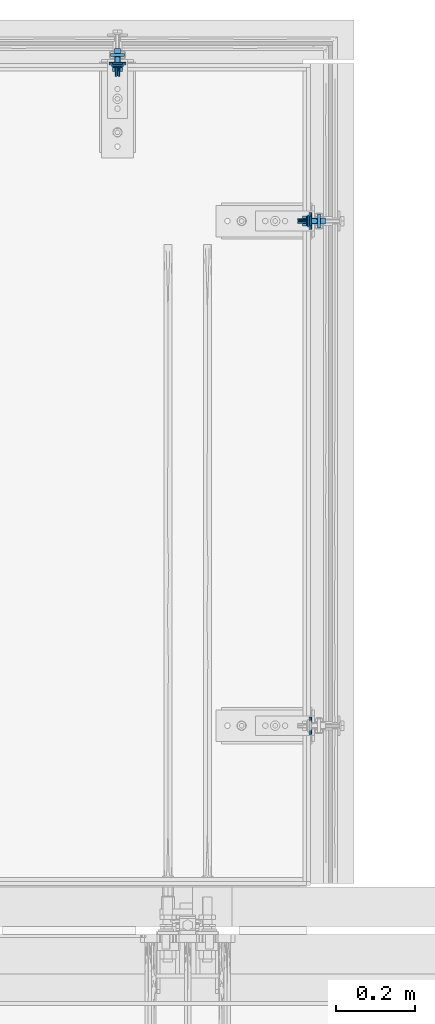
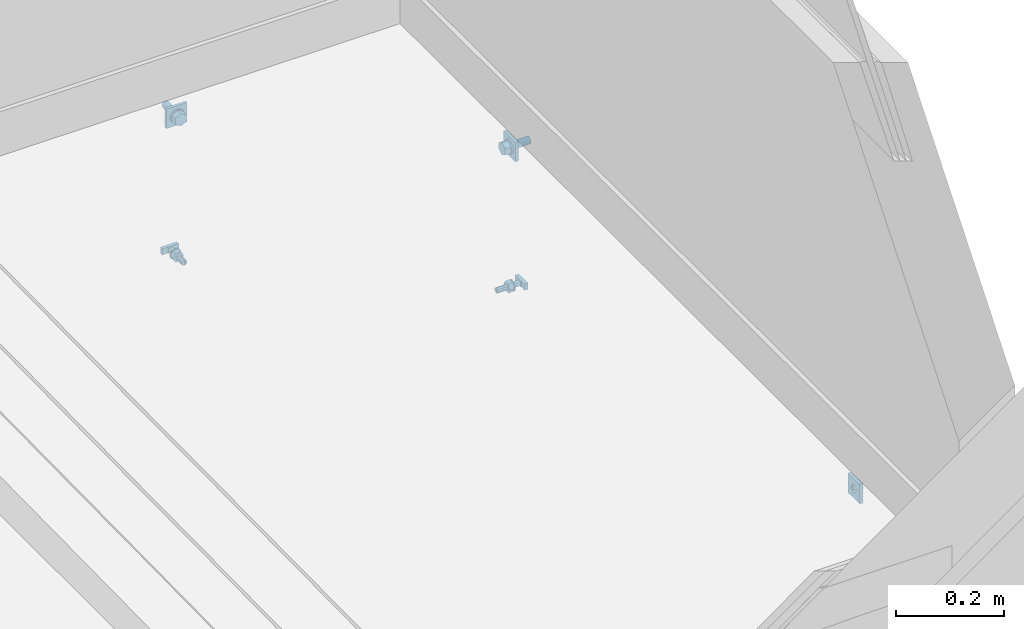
# One storey, part 7 of 17: 13 assemblies.
"""IFC2X3 building model written with IfcOpenShell, lengths in metres."""

import ifcopenshell
import ifcopenshell.guid

model = None  # the IFC model being written
_history = None  # IfcOwnerHistory: only IFC2X3 demands one
_inside = {}  # id of a spatial element -> (the spatial element, [elements in it])
_under = {}  # id of a project, library or spatial element -> (it, [spatial elements below it])
_declared = {}  # id of a project -> (the project, [libraries it declares])
_typed = {}  # id of a type object -> (the type object, [elements of that type])
_made_of = {}  # id of a material, layer set ... -> (it, [elements and type objects made of it])


def new_model(schema):
    """Start an empty IFC model of exactly this schema.

    Asked for "IFC4X3", IfcOpenShell would pick the latest addendum, in which some entities
    have other attributes; the version numbers below select the first issue.
    IFC2X3 requires an IfcOwnerHistory on every rooted entity: one is made here for all.
    """
    global model, _history
    if schema == "IFC4X3":
        model = ifcopenshell.file(schema_version=(4, 3, 0, 0))
    else:
        model = ifcopenshell.file(schema=schema)
    _inside.clear()
    _under.clear()
    _declared.clear()
    _typed.clear()
    _made_of.clear()
    _history = None
    if model.schema == "IFC2X3":
        org = make("IfcOrganization", Name="unknown")
        user = make(
            "IfcPersonAndOrganization",
            ThePerson=make("IfcPerson", FamilyName="unknown"),
            TheOrganization=org,
        )
        app = make(
            "IfcApplication",
            ApplicationDeveloper=org,
            Version="unknown",
            ApplicationFullName="unknown",
            ApplicationIdentifier="unknown",
        )
        _history = make(
            "IfcOwnerHistory",
            OwningUser=user,
            OwningApplication=app,
            ChangeAction="ADDED",
            CreationDate=0,
        )
    return model


def make(cls, **values):
    """One entity of the class cls with the attributes given. An attribute that is None is left unset."""
    return model.create_entity(
        cls, **{name: value for name, value in values.items() if value is not None}
    )


def entity(cls, *values):
    """Any entity or typed value of the class cls, its attributes in the order of the schema. None: left unset."""
    e = model.create_entity(cls)
    for i, value in enumerate(values):
        if value is not None:
            e[i] = value
    return e


def rooted(cls, **values):
    """An entity with a GlobalId (a new one), such as an element, a storey or a relation."""
    return make(cls, GlobalId=ifcopenshell.guid.new(), OwnerHistory=_history, **values)


def si_unit(unit_type, name, prefix=None):
    """IfcSIUnit, for example si_unit("LENGTHUNIT", "METRE", prefix="MILLI")."""
    return make("IfcSIUnit", UnitType=unit_type, Prefix=prefix, Name=name)


def converted_unit(unit_type, name, factor, base, dimensions=None, offset=None):
    """IfcConversionBasedUnit, such as the inch: factor (a typed value) times the base unit."""
    return make(
        "IfcConversionBasedUnit"
        if offset is None
        else "IfcConversionBasedUnitWithOffset",
        ConversionOffset=offset,
        Dimensions=None
        if dimensions is None
        else entity("IfcDimensionalExponents", *dimensions),
        UnitType=unit_type,
        Name=name,
        ConversionFactor=make(
            "IfcMeasureWithUnit", ValueComponent=factor, UnitComponent=base
        ),
    )


def derived_unit(unit_type, elements):
    """IfcDerivedUnit: a product of units, each with its exponent."""
    return make(
        "IfcDerivedUnit",
        Elements=[
            make("IfcDerivedUnitElement", Unit=unit, Exponent=power)
            for unit, power in elements
        ],
        UnitType=unit_type,
    )


def assignment(units):
    """IfcUnitAssignment: the units of a project."""
    return None if units is None else make("IfcUnitAssignment", Units=units)


def point(xyz):
    """IfcCartesianPoint."""
    return None if xyz is None else make("IfcCartesianPoint", Coordinates=xyz)


def direction(xyz):
    """IfcDirection."""
    return None if xyz is None else make("IfcDirection", DirectionRatios=xyz)


def frame(location, z_axis=None, x_axis=None):
    """IfcAxis2Placement3D, a coordinate frame: its origin and axes. An axis left out is left unset."""
    return make(
        "IfcAxis2Placement3D",
        Location=point(location),
        Axis=direction(z_axis),
        RefDirection=direction(x_axis),
    )


def frame_2d(location, x_axis=None):
    """IfcAxis2Placement2D, a coordinate frame in the plane: its origin and x axis."""
    return make(
        "IfcAxis2Placement2D", Location=point(location), RefDirection=direction(x_axis)
    )


def origin():
    """The frame at (0, 0, 0) with its axes left unset."""
    return frame((0.0, 0.0, 0.0))


def place(relative_to, where):
    """IfcLocalPlacement: puts the frame where relative to a parent placement (None: the world)."""
    return make(
        "IfcLocalPlacement", PlacementRelTo=relative_to, RelativePlacement=where
    )


def context(
    kind, dimensions, precision=None, world=None, true_north=None, identifier=None
):
    """IfcGeometricRepresentationContext, for example the 3D "Model" context."""
    return make(
        "IfcGeometricRepresentationContext",
        ContextIdentifier=identifier,
        ContextType=kind,
        CoordinateSpaceDimension=dimensions,
        Precision=precision,
        WorldCoordinateSystem=world,
        TrueNorth=true_north,
    )


def subcontext(parent, identifier, kind, view, scale=None):
    """IfcGeometricRepresentationSubContext, for example "Body" below "Model"."""
    return make(
        "IfcGeometricRepresentationSubContext",
        ContextIdentifier=identifier,
        ContextType=kind,
        ParentContext=parent,
        TargetScale=scale,
        TargetView=view,
    )


def project(units=None, contexts=None):
    """IfcProject with its units and contexts."""
    return rooted(
        "IfcProject",
        Name="project",
        RepresentationContexts=contexts,
        UnitsInContext=assignment(units),
    )


def spatial(cls, under=None, at=None, **own):
    """A site, building, storey or space (cls), placed at a placement, below another one or the project."""
    s = rooted(cls, ObjectPlacement=at, **own)
    if under is not None:
        _under.setdefault(under.id(), (under, []))[1].append(s)
    return s


def polyline(points):
    """IfcPolyline through the points."""
    return make("IfcPolyline", Points=[point(p) for p in points])


def circle_curve(where, radius):
    """IfcCircle in the frame where."""
    return make("IfcCircle", Position=where, Radius=radius)


def parameter(value):
    """IfcParameterValue: where a trimmed curve begins or ends, as a parameter of its basis curve."""
    return model.create_entity("IfcParameterValue", value)


def trimmed(basis, trim1, trim2, sense, master):
    """IfcTrimmedCurve: the piece of a basis curve between two trims."""
    return make(
        "IfcTrimmedCurve",
        BasisCurve=basis,
        Trim1=trim1,
        Trim2=trim2,
        SenseAgreement=sense,
        MasterRepresentation=master,
    )


def segment(curve, same_sense, transition):
    """IfcCompositeCurveSegment."""
    return make(
        "IfcCompositeCurveSegment",
        Transition=transition,
        SameSense=same_sense,
        ParentCurve=curve,
    )


def composite_curve(segments, self_intersect=None):
    """IfcCompositeCurve: segments joined end to end."""
    return make("IfcCompositeCurve", Segments=segments, SelfIntersect=self_intersect)


def profile(cls, at=None, kind="AREA", **sizes):
    """A parametric profile (cls). Its sizes go by their IFC names, for example OverallWidth=200.0."""
    return make(cls, ProfileType=kind, Position=at, **sizes)


def circle(**sizes):
    """IfcCircleProfileDef."""
    return profile("IfcCircleProfileDef", **sizes)


def hollow_circle(**sizes):
    """IfcCircleHollowProfileDef."""
    return profile("IfcCircleHollowProfileDef", **sizes)


def outline(outer, holes=None, kind="AREA"):
    """IfcArbitraryClosedProfileDef: a profile drawn as a closed curve; with holes, ...WithVoids."""
    if holes is None:
        return make("IfcArbitraryClosedProfileDef", ProfileType=kind, OuterCurve=outer)
    return make(
        "IfcArbitraryProfileDefWithVoids",
        ProfileType=kind,
        OuterCurve=outer,
        InnerCurves=holes,
    )


def extrude(swept, where, along, depth):
    """IfcExtrudedAreaSolid: the profile swept, set in the frame where, extruded along a direction by depth."""
    return make(
        "IfcExtrudedAreaSolid",
        SweptArea=swept,
        Position=where,
        ExtrudedDirection=direction(along),
        Depth=depth,
    )


def faces_of(points, faces, orient=None, outer=None):
    """IfcFace entities. A face is a list of loops; a loop is a list of indices into points, from 0.

    orient and outer hold one flag for each loop. By default every Orientation is true, the
    first loop of a face is its IfcFaceOuterBound and the others are IfcFaceBound.
    """
    made = []
    for i, loops in enumerate(faces):
        bounds = []
        for j, loop in enumerate(loops):
            is_outer = j == 0 if outer is None else outer[i][j]
            bounds.append(
                make(
                    "IfcFaceOuterBound" if is_outer else "IfcFaceBound",
                    Bound=make("IfcPolyLoop", Polygon=[points[k] for k in loop]),
                    Orientation=True if orient is None else orient[i][j],
                )
            )
        made.append(make("IfcFace", Bounds=bounds))
    return made


def faceted_brep(points, faces, orient=None, outer=None, voids=None):
    """IfcFacetedBrep: a solid bounded by flat faces; with voids (closed shells), ...WithVoids."""
    shared = [point(p) for p in points]
    hull = make("IfcClosedShell", CfsFaces=faces_of(shared, faces, orient, outer))
    if voids is None:
        return make("IfcFacetedBrep", Outer=hull)
    return make(
        "IfcFacetedBrepWithVoids",
        Outer=hull,
        Voids=[
            make(cls, CfsFaces=faces_of(shared, fs, o, b)) for cls, fs, o, b in voids
        ],
    )


def shape(context_of_items, identifier, shape_type, items):
    """IfcShapeRepresentation: the items that make up one representation, for example the "Body"."""
    return make(
        "IfcShapeRepresentation",
        ContextOfItems=context_of_items,
        RepresentationIdentifier=identifier,
        RepresentationType=shape_type,
        Items=items,
    )


def source(mapping_origin, context_of_items, identifier, shape_type, items):
    """IfcRepresentationMap: a shape defined once, which mapped items show again and again."""
    return make(
        "IfcRepresentationMap",
        MappingOrigin=mapping_origin,
        MappedRepresentation=shape(context_of_items, identifier, shape_type, items),
    )


def transform(
    local_origin,
    x_axis=None,
    y_axis=None,
    z_axis=None,
    scale=None,
    scale2=None,
    scale3=None,
    uniform=True,
):
    """IfcCartesianTransformationOperator3D, or its non-uniform kind. x_axis, y_axis, z_axis: its Axis1, 2, 3."""
    if uniform:
        return make(
            "IfcCartesianTransformationOperator3D",
            Axis1=direction(x_axis),
            Axis2=direction(y_axis),
            LocalOrigin=point(local_origin),
            Scale=scale,
            Axis3=direction(z_axis),
        )
    return make(
        "IfcCartesianTransformationOperator3DnonUniform",
        Axis1=direction(x_axis),
        Axis2=direction(y_axis),
        LocalOrigin=point(local_origin),
        Scale=scale,
        Axis3=direction(z_axis),
        Scale2=scale2,
        Scale3=scale3,
    )


def mapped(mapping_source, mapping_target):
    """IfcMappedItem: shows the shape of a source again, moved by a transform."""
    return make(
        "IfcMappedItem", MappingSource=mapping_source, MappingTarget=mapping_target
    )


def material(Name=None, Category=None):
    """IfcMaterial."""
    return make("IfcMaterial", Name=Name, Category=Category)


def made_of(thing, what):
    """Note that an element or type object is made of a material, layer set ...; save() writes the relation."""
    if what is not None:
        _made_of.setdefault(what.id(), (what, []))[1].append(thing)
    return thing


def type_object(cls, material=None, **own):
    """A type object (cls), such as IfcWallType, which elements share."""
    return made_of(rooted(cls, **own), material)


def type_shapes(of_type, sources):
    """Give a type object the sources (RepresentationMaps) that its elements show as mapped items."""
    of_type.RepresentationMaps = sources


def element(
    cls,
    number,
    at=None,
    inside=None,
    cuts=None,
    type_object=None,
    material=None,
    context=None,
    identifier="Body",
    shape_type=None,
    held_by="IfcProductDefinitionShape",
    body=None,
    shapes=None,
    **own,
):
    """One element of the class cls, such as IfcWall. Its Tag is "e" and its number.

    at: its placement. inside: the storey or other place that contains it. cuts: it is an
    opening in that element (IfcRelVoidsElement). A single representation is given by context,
    identifier, shape_type and body (its items); several are given by shapes. held_by: the class
    of the entity that holds the representations. save() writes the other relations.
    """
    e = rooted(cls, Tag="e%d" % number, ObjectPlacement=at, **own)
    if body is not None:
        shapes = [shape(context, identifier, shape_type, body)]
    if shapes is not None:
        e.Representation = make(held_by, Representations=shapes)
    if inside is not None:
        _inside.setdefault(inside.id(), (inside, []))[1].append(e)
    if cuts is not None:
        rooted(
            "IfcRelVoidsElement", RelatingBuildingElement=cuts, RelatedOpeningElement=e
        )
    if type_object is not None:
        _typed.setdefault(type_object.id(), (type_object, []))[1].append(e)
    return made_of(e, material)


def aggregate(whole, parts):
    """IfcRelAggregates: a whole, such as a stair, and the parts it consists of."""
    return rooted("IfcRelAggregates", RelatingObject=whole, RelatedObjects=parts)


def save(model, path):
    """Write the relations noted so far, then the file.

    IfcRelAggregates (storeys below a building ...), IfcRelContainedInSpatialStructure (elements
    in a storey), IfcRelDefinesByType, IfcRelAssociatesMaterial and IfcRelDeclares: one each for
    every whole, place, type object, material and project.
    """
    for whole, parts in _under.values():
        aggregate(whole, parts)
    for where, things in _inside.values():
        rooted(
            "IfcRelContainedInSpatialStructure",
            RelatedElements=things,
            RelatingStructure=where,
        )
    for kind, things in _typed.values():
        rooted("IfcRelDefinesByType", RelatedObjects=things, RelatingType=kind)
    for what, things in _made_of.values():
        rooted("IfcRelAssociatesMaterial", RelatedObjects=things, RelatingMaterial=what)
    for by, libraries in _declared.values():
        rooted("IfcRelDeclares", RelatingContext=by, RelatedDefinitions=libraries)
    model.write(path)


model = new_model("IFC2X3")

# Units and contexts
model_context = context("Model", 3, precision=1e-05, world=origin(), true_north=direction((6.123031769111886e-17, 1.0)))
plan_context = context("Plan", 3, precision=1e-05, world=origin(), true_north=direction((6.123031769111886e-17, 1.0)))
body_context = subcontext(model_context, "Body", "Model", "MODEL_VIEW")
ifc_project = project(units=[si_unit("LENGTHUNIT", "METRE"), si_unit("AREAUNIT", "SQUARE_METRE"), converted_unit("PLANEANGLEUNIT", "DEGREE", entity("IfcPlaneAngleMeasure", 0.017453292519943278), si_unit("PLANEANGLEUNIT", "RADIAN"), dimensions=[0, 0, 0, 0, 0, 0, 0]), si_unit("VOLUMEUNIT", "CUBIC_METRE"), derived_unit("THERMALTRANSMITTANCEUNIT", [(si_unit("MASSUNIT", "GRAM", prefix="KILO"), 1), (si_unit("THERMODYNAMICTEMPERATUREUNIT", "KELVIN"), -1), (si_unit("TIMEUNIT", "SECOND"), -3)]), derived_unit("USERDEFINED", [(si_unit("MASSUNIT", "GRAM", prefix="KILO"), 1), (si_unit("THERMODYNAMICTEMPERATUREUNIT", "KELVIN"), -1), (si_unit("TIMEUNIT", "SECOND"), -2)]), derived_unit("THERMALRESISTANCEUNIT", [(si_unit("MASSUNIT", "GRAM", prefix="KILO"), -1), (si_unit("TIMEUNIT", "SECOND"), 3), (si_unit("THERMODYNAMICTEMPERATUREUNIT", "KELVIN"), 1)]), si_unit("PRESSUREUNIT", "PASCAL"), derived_unit("MASSDENSITYUNIT", [(si_unit("MASSUNIT", "GRAM", prefix="KILO"), 1), (si_unit("LENGTHUNIT", "METRE"), -3)]), derived_unit("VAPORPERMEABILITYUNIT", [(si_unit("LENGTHUNIT", "METRE"), -1), (si_unit("TIMEUNIT", "SECOND"), 1)]), derived_unit("USERDEFINED", [(si_unit("MASSUNIT", "GRAM", prefix="KILO"), 1), (si_unit("TIMEUNIT", "SECOND"), -3), (si_unit("LENGTHUNIT", "METRE"), 3), (si_unit("ELECTRICCURRENTUNIT", "AMPERE"), -2)])], contexts=[model_context, plan_context])

# Site, building, storey
site_placement = place(None, origin())
site = spatial("IfcSite", under=ifc_project, at=site_placement, Name="Default", CompositionType="ELEMENT")
building_placement = place(site_placement, origin())
building = spatial("IfcBuilding", under=site, at=building_placement, CompositionType="ELEMENT")
storey_placement = place(building_placement, origin())
storey = spatial("IfcBuildingStorey", under=building, at=storey_placement, Name="L0", CompositionType="ELEMENT", Elevation=0.0)

# Assemblies
ifc_material = material(Name="REC_Acero, S 275JR (Zincado)")
type_product_1 = type_object("IfcTypeProduct", Name="REC-A-M16:A-M16", material=ifc_material)
shared_shape_1 = source(origin(), body_context, "Body", "SweptSolid", [
    extrude(hollow_circle(Radius=0.015, WallThickness=0.006499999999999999, at=frame_2d((1.062573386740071e-19, -2.4233168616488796e-17), x_axis=(1.0, 0.0))), origin(), (0.0, 0.0, 1.0), 0.003),
])
type_shapes(type_product_1, [shared_shape_1])
for number, where, z_axis, x_axis in (
    (1, (7.407720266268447, 16.999905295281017, 0.07200000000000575), (0.0, -1.0, 0.0), (1.0, 0.0, 0.0)),
    (2, (7.893095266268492, 16.604530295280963, 0.07200000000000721), (-1.0, 0.0, 0.0), (0.0, -1.0, 0.0)),
):
    element("IfcElementAssembly", number, at=place(storey_placement, frame(where, z_axis=z_axis, x_axis=x_axis)), inside=storey, type_object=type_product_1, material=ifc_material, Name="REC-A-M16:A-M16", ObjectType="REC-A-M16:A-M16", AssemblyPlace="NOTDEFINED", PredefinedType="NOTDEFINED", context=body_context, shape_type="MappedRepresentation", body=[
        mapped(shared_shape_1, transform((0.0, 0.0, 0.0), scale=1.0)),
    ])
type_product_2 = type_object("IfcTypeProduct", Name="REC-M16-45:M16-45", material=ifc_material)
shared_shape_2 = source(origin(), body_context, "Body", "SweptSolid", [
    extrude(outline(polyline([(-0.0070686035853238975, -0.012243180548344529), (0.007068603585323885, -0.012243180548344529), (0.014137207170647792, 0.0), (0.007068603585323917, 0.012243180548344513), (-0.007068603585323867, 0.012243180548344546), (-0.014137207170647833, 0.0), (-0.0070686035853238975, -0.012243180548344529)])), origin(), (0.0, 0.0, 1.0), 0.013000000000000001),
    extrude(circle(Radius=0.008, at=frame_2d((-5.2874371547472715e-19, -1.2924356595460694e-17), x_axis=(1.0, 0.0))), frame((0.0, 0.0, -0.045000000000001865)), (0.0, 0.0, 1.0), 0.045000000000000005),
])
type_shapes(type_product_2, [shared_shape_2])
for number, where, z_axis, x_axis, name in (
    (3, (7.407720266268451, 16.996905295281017, 0.07199999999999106), (0.0, -1.0, 0.0), (0.0, 0.0, 1.0), "REC-M16-45:M16-45"),
    (4, (7.890095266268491, 16.60453029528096, 0.07199999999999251), (-1.0, 0.0, 0.0), (0.0, 0.0, 1.0), "REC-M16-45:M16-45"),
):
    element("IfcElementAssembly", number, at=place(storey_placement, frame(where, z_axis=z_axis, x_axis=x_axis)), inside=storey, type_object=type_product_2, material=ifc_material, Name=name, ObjectType="REC-M16-45:M16-45", AssemblyPlace="NOTDEFINED", PredefinedType="NOTDEFINED", context=body_context, shape_type="MappedRepresentation", body=[
        mapped(shared_shape_2, transform((0.0, 0.0, 0.0), scale=1.0)),
    ])
type_product_3 = type_object("IfcTypeProduct", Name="REC-TPH1250:TPH1250", material=ifc_material)
shared_shape_3 = source(origin(), body_context, "Body", "Brep", [
    faceted_brep([(-0.005512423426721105, 0.006999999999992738, 0.04999470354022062), (-0.005512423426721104, 0.006999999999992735, 0.050994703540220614), (-0.017500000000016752, 0.006999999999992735, 0.050994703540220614), (-0.017500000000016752, 0.006999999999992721, 0.05849470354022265), (0.01750000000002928, 0.006999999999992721, 0.05849470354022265), (0.01750000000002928, 0.006999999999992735, 0.0509947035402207), (0.00551242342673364, 0.006999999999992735, 0.0509947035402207), (0.00551242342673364, 0.006999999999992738, 0.04999470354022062), (-0.005512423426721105, -0.007000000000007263, 0.04999470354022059), (0.00551242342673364, -0.007000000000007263, 0.04999470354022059), (0.00551242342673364, -0.007000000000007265, 0.05099470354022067), (0.01750000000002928, -0.007000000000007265, 0.05099470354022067), (0.01750000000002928, -0.007000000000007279, 0.058494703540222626), (-0.017500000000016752, -0.007000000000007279, 0.058494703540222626), (-0.017500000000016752, -0.007000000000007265, 0.050994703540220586), (-0.005512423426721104, -0.007000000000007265, 0.050994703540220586)], [[[0, 1, 2, 3, 4, 5, 6, 7]], [[8, 9, 10, 11, 12, 13, 14, 15]], [[1, 0, 8, 15]], [[3, 2, 14, 13]], [[4, 3, 13, 12]], [[5, 4, 12, 11]], [[6, 5, 11, 10]], [[7, 6, 10, 9]], [[0, 7, 9, 8]], [[2, 1, 15, 14]]]),
    faceted_brep([(0.002796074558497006, -0.002860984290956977, 0.0489420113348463), (-3.2352566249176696e-05, -0.004032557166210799, 0.0489420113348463), (-0.0028607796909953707, -0.002860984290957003, 0.0489420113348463), (-0.004032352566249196, -3.255716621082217e-05, 0.048942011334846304), (-0.0028607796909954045, 0.0027958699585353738, 0.048942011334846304), (-3.235256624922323e-05, 0.0039674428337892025, 0.04894201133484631), (0.0027960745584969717, 0.0027958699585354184, 0.048942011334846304), (0.00396764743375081, -3.2557166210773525e-05, 0.048942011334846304), (0.002796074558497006, -0.002860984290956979, 0.0499947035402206), (0.00396764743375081, -3.255716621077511e-05, 0.04999470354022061), (0.0027960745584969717, 0.0027958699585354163, 0.04999470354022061), (-3.235256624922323e-05, 0.0039674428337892, 0.04999470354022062), (-0.0028607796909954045, 0.0027958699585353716, 0.04999470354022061), (-0.004032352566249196, -3.2557166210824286e-05, 0.04999470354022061), (-0.0028607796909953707, -0.002860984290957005, 0.0499947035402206), (-3.2352566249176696e-05, -0.0040325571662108, 0.0499947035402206)], [[[0, 1, 2, 3, 4, 5, 6, 7]], [[8, 9, 10, 11, 12, 13, 14, 15]], [[1, 0, 8, 15]], [[2, 1, 15, 14]], [[3, 2, 14, 13]], [[4, 3, 13, 12]], [[5, 4, 12, 11]], [[6, 5, 11, 10]], [[7, 6, 10, 9]], [[0, 7, 9, 8]]]),
    faceted_brep([(0.004541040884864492, -0.00392160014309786, 0.0), (0.0008991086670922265, -0.005932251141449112, 0.0), (0.0008991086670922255, 0.00593225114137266, 0.0), (0.004555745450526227, 0.0039045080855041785, 0.0), (0.005999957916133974, -2.2472309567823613e-05, 0.0), (-0.0008991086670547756, -0.005932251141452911, 0.0), (-0.004556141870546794, -0.00390404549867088, 0.0), (-0.005999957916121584, 2.2472309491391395e-05, 0.0), (-0.004541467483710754, 0.0039211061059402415, 0.0), (-0.0008991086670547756, 0.005932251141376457, 0.0), (2.2472309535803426e-05, 0.0059999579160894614, 0.04894201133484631), (-0.0015311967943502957, 0.005801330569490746, 0.04894201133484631), (-0.002980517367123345, 0.005207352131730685, 0.04894201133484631), (-0.004226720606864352, 0.004258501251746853, 0.04894201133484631), (-0.005184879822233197, 0.0030194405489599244, 0.04894201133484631), (-0.005789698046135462, 0.0015746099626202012, 0.048942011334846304), (-0.005999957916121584, 2.247230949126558e-05, 0.048942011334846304), (-0.005801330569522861, -0.0015311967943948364, 0.048942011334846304), (-0.005207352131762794, -0.0029805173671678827, 0.0489420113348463), (-0.004258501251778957, -0.004226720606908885, 0.0489420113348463), (-0.003019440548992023, -0.005184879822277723, 0.0489420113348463), (-0.001574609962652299, -0.005789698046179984, 0.0489420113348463), (-2.2472309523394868e-05, -0.005999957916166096, 0.0489420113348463), (0.0015311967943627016, -0.005801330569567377, 0.0489420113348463), (0.002980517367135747, -0.005207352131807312, 0.0489420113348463), (0.0042267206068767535, -0.004258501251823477, 0.0489420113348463), (0.005184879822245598, -0.0030194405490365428, 0.0489420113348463), (0.005789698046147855, -0.0015746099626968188, 0.048942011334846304), (0.005999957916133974, -2.2472309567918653e-05, 0.048942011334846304), (0.005801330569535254, 0.0015311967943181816, 0.048942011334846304), (0.005207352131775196, 0.002980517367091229, 0.04894201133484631), (0.004258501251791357, 0.004226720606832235, 0.04894201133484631), (0.0030194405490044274, 0.005184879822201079, 0.04894201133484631), (0.0015746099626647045, 0.005789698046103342, 0.04894201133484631), (0.0008991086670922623, -0.005932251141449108, 0.0014985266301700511), (0.0, -0.0060000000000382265, 0.0014985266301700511), (-0.000899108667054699, -0.005932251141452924, 0.0014985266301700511), (-0.0008991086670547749, 0.005932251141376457, 0.001498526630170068), (0.0, 0.00599999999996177, 0.001498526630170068), (0.0008991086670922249, 0.005932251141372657, 0.001498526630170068)], [[[0, 1, 2, 3, 4]], [[5, 6, 7, 8, 9]], [[10, 11, 12, 13, 14, 15, 16, 17, 18, 19, 20, 21, 22, 23, 24, 25, 26, 27, 28, 29, 30, 31, 32, 33]], [[4, 28, 27]], [[0, 26, 25]], [[27, 26, 0]], [[25, 24, 34]], [[27, 0, 4]], [[24, 23, 34]], [[25, 34, 0]], [[34, 1, 0]], [[22, 35, 34]], [[34, 23, 22]], [[36, 22, 21]], [[36, 20, 19]], [[21, 20, 36]], [[19, 18, 6]], [[5, 36, 6]], [[36, 19, 6]], [[17, 16, 7]], [[17, 7, 6]], [[18, 17, 6]], [[36, 35, 22]], [[7, 16, 15]], [[8, 14, 13]], [[15, 14, 8]], [[13, 12, 37]], [[15, 8, 7]], [[12, 11, 37]], [[13, 37, 8]], [[37, 9, 8]], [[10, 38, 37]], [[37, 11, 10]], [[39, 10, 33]], [[39, 32, 31]], [[33, 32, 39]], [[31, 30, 3]], [[2, 39, 3]], [[39, 31, 3]], [[29, 28, 4]], [[29, 4, 3]], [[30, 29, 3]], [[39, 38, 10]], [[36, 5, 9, 37]], [[34, 35, 36, 37, 38, 39]], [[34, 39, 2, 1]]]),
])
type_shapes(type_product_3, [shared_shape_3])
for number, where, z_axis, x_axis, name in (
    (5, (7.407720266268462, 16.971535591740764, -0.2450000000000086), (0.0, 1.0, 0.0), (-1.0, 0.0, 0.0), "REC-TPH1250:TPH1250"),
    (6, (7.864725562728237, 16.604530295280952, -0.24499999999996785), (1.0, 0.0, 0.0), (0.0, 1.0, 0.0), "REC-TPH1250:TPH1250"),
):
    element("IfcElementAssembly", number, at=place(storey_placement, frame(where, z_axis=z_axis, x_axis=x_axis)), inside=storey, type_object=type_product_3, material=ifc_material, Name=name, ObjectType="REC-TPH1250:TPH1250", AssemblyPlace="NOTDEFINED", PredefinedType="NOTDEFINED", context=body_context, shape_type="MappedRepresentation", body=[
        mapped(shared_shape_3, transform((0.0, 0.0, 0.0), scale=1.0)),
    ])
type_product_4 = type_object("IfcTypeProduct", Name="GEN-A-M12:A-M12", material=ifc_material)
shared_shape_4 = source(origin(), body_context, "Body", "SweptSolid", [
    extrude(hollow_circle(Radius=0.011999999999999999, WallThickness=0.004999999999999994, at=frame_2d((1.062573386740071e-19, -1.9386534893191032e-17), x_axis=(1.0, 0.0))), origin(), (0.0, 0.0, 1.0), 0.002399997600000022),
])
type_shapes(type_product_4, [shared_shape_4])
for number, where, z_axis, x_axis in (
    (7, (7.4077202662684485, 17.006530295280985, -0.2450000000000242), (0.0, -1.0, 0.0), (-1.0, 0.0, 0.0)),
    (8, (7.89972026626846, 16.604530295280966, -0.24499999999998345), (-1.0, 0.0, 0.0), (0.0, 1.0, 0.0)),
):
    element("IfcElementAssembly", number, at=place(storey_placement, frame(where, z_axis=z_axis, x_axis=x_axis)), inside=storey, type_object=type_product_4, material=ifc_material, Name="GEN-A-M12:A-M12", ObjectType="GEN-A-M12:A-M12", AssemblyPlace="NOTDEFINED", PredefinedType="NOTDEFINED", context=body_context, shape_type="MappedRepresentation", body=[
        mapped(shared_shape_4, transform((0.0, 0.0, 0.0), scale=1.0)),
    ])
type_product_5 = type_object("IfcTypeProduct", Name="GEN-T-M12:T-M12", material=ifc_material)
shared_shape_5 = source(origin(), body_context, "Body", "SweptSolid", [
    extrude(outline(polyline([(-0.005890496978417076, -0.010202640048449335), (0.005890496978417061, -0.010202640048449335), (0.01178099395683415, 0.0), (0.005890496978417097, 0.010202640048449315), (-0.0058904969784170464, 0.010202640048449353), (-0.011780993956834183, 0.0), (-0.005890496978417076, -0.010202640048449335)]), holes=[composite_curve([segment(trimmed(circle_curve(frame_2d((6.043164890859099e-09, 0.0), x_axis=(1.0, 0.0)), 0.005999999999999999), [parameter(3.053332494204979e-13)], [parameter(180.0)], True, "PARAMETER"), False, "CONTINUOUS"), segment(trimmed(circle_curve(frame_2d((6.043164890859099e-09, 0.0), x_axis=(1.0, 0.0)), 0.005999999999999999), [parameter(179.99999999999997)], [parameter(0.0)], True, "PARAMETER"), False, "CONTINUOUS")], self_intersect=False)]), frame((-6.043164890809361e-09, 0.0, 0.0)), (0.0, 0.0, 1.0), 0.01),
])
type_shapes(type_product_5, [shared_shape_5])
for number, where, z_axis, x_axis in (
    (9, (7.40772026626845, 17.004130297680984, -0.2450000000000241), (0.0, -1.0, 0.0), (-1.0, 0.0, 0.0)),
    (10, (7.8973202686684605, 16.604530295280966, -0.24499999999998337), (-1.0, 0.0, 0.0), (0.0, 1.0, 0.0)),
):
    element("IfcElementAssembly", number, at=place(storey_placement, frame(where, z_axis=z_axis, x_axis=x_axis)), inside=storey, type_object=type_product_5, material=ifc_material, Name="GEN-T-M12:T-M12", ObjectType="GEN-T-M12:T-M12", AssemblyPlace="NOTDEFINED", PredefinedType="NOTDEFINED", context=body_context, shape_type="MappedRepresentation", body=[
        mapped(shared_shape_5, transform((0.0, 0.0, 0.0), scale=1.0)),
    ])
type_product_6 = type_object("IfcTypeProduct", Name="REC-CPA448T17:CPA448T17", material=ifc_material)
shared_shape_6 = source(origin(), body_context, "Body", "Brep", [
    faceted_brep([(-0.0045576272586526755, -0.007174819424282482, 0.0008251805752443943), (-0.002872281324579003, -0.007999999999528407, 0.0), (-0.022000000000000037, -0.007999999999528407, 0.0), (-0.02200000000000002, -0.005999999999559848, 0.001999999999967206), (-0.006020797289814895, -0.005999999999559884, 0.0019999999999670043), (0.02199999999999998, -0.0059999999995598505, 0.0019999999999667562), (0.02199999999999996, -0.007999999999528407, 0.0), (0.0028722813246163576, -0.00799999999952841, 0.0), (0.004557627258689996, -0.007174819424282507, 0.0008251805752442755), (0.006020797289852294, -0.005999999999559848, 0.001999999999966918), (-0.007943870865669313, -0.0030240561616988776, 0.0009759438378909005), (-0.007500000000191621, -0.003999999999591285, 0.0), (-0.022000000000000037, -0.003999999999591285, 0.0), (-0.02200000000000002, -0.0019999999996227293, 0.001999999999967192), (-0.008261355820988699, -0.0019999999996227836, 0.0019999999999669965), (0.02199999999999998, -0.001999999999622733, 0.0019999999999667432), (0.02199999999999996, -0.003999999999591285, 0.0), (0.007500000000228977, -0.003999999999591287, 0.0), (0.00794387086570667, -0.0030240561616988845, 0.0009759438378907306), (0.008261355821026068, -0.0019999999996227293, 0.001999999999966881), (-0.0028722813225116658, 0.008000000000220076, 0.0), (-0.004557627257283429, 0.007174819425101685, 0.0008251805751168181), (-0.006020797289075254, 0.006000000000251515, 0.001999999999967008), (-0.022000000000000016, 0.006000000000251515, 0.001999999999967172), (-0.022000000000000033, 0.008000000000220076, 0.0), (0.02199999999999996, 0.008000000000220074, 0.0), (0.02199999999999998, 0.006000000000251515, 0.0019999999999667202), (0.006020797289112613, 0.006000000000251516, 0.001999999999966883), (0.0045576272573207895, 0.007174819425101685, 0.0008251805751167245), (0.0028722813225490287, 0.008000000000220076, 0.0), (-0.007499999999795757, 0.004000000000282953, 0.0), (-0.007943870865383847, 0.003024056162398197, 0.0009759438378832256), (-0.008261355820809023, 0.002000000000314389, 0.0019999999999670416), (-0.022000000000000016, 0.002000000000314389, 0.001999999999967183), (-0.022000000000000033, 0.0040000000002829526, 0.0), (0.02199999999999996, 0.004000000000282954, 0.0), (0.02199999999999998, 0.002000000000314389, 0.0019999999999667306), (0.00826135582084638, 0.002000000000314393, 0.0019999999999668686), (0.007943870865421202, 0.003024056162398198, 0.0009759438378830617), (0.007499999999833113, 0.0040000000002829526, 0.0), (-0.008440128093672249, 0.001007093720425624, 0.0010070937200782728), (-0.008499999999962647, 0.0, 0.0), (-0.022000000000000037, 0.0, 0.0), (0.02199999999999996, 0.0, 0.0), (0.008500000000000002, 0.0, 0.0), (0.008440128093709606, 0.001007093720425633, 0.0010070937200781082), (-0.006833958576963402, 0.005054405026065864, 0.0010544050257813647), (0.0068339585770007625, 0.005054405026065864, 0.0010544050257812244), (-0.008440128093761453, -0.0010070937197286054, 0.0010070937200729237), (0.00844012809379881, -0.0010070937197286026, 0.0010070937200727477), (-0.006833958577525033, -0.0050544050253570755, 0.0010544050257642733), (0.00683395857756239, -0.005054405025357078, 0.0010544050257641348), (0.02199999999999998, -0.009999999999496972, 0.0019999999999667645), (0.02199999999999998, 0.010000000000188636, 0.0019999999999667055), (0.02199999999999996, 0.012000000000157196, 0.0), (0.02199999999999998, 0.014000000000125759, 0.0019999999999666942), (0.02199999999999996, 0.01600000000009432, 0.0), (0.02199999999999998, 0.018000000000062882, 0.001999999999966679), (0.02199999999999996, 0.02000000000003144, 0.0), (0.02199999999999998, 0.022000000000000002, 0.0019999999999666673), (0.022000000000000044, 0.022000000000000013, 0.007999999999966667), (0.022000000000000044, -0.022000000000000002, 0.007999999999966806), (0.02199999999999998, -0.022000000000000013, 0.002000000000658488), (0.02199999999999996, -0.019999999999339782, 0.0), (0.02199999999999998, -0.017999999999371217, 0.0019999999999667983), (0.02199999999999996, -0.015999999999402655, 0.0), (0.02199999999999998, -0.013999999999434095, 0.0019999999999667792), (0.02199999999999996, -0.01199999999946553, 0.0), (-0.022000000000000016, 0.018000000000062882, 0.0019999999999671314), (-0.022000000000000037, 0.01600000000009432, 0.0), (-0.022000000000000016, 0.014000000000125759, 0.001999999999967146), (-0.022000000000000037, 0.012000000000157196, 0.0), (-0.022000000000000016, 0.010000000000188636, 0.0019999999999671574), (-0.022000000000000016, -0.009999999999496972, 0.001999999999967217), (-0.022000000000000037, -0.01199999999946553, 0.0), (-0.022000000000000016, -0.013999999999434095, 0.0019999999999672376), (-0.022000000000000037, -0.015999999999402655, 0.0), (-0.022000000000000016, -0.017999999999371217, 0.0019999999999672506), (-0.022000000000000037, -0.019999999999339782, 0.0), (-0.022000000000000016, -0.022000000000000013, 0.0020000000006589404), (-0.021999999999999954, -0.022000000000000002, 0.007999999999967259), (-0.021999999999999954, 0.022000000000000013, 0.00799999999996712), (-0.022000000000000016, 0.022000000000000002, 0.0019999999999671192), (-0.022000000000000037, 0.02000000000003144, 0.0), (0.0073612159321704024, 0.004249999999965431, 0.007999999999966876), (0.00821036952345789, 0.002199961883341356, 0.007999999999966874), (0.006010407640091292, 0.00601040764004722, 0.007999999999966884), (0.008500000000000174, 0.0, 0.007999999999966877), (0.0042500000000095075, 0.007361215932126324, 0.007999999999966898), (0.0021999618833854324, 0.00821036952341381, 0.007999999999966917), (0.0, 0.00849999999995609, 0.007999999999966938), (-0.002199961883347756, 0.008210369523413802, 0.00799999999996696), (-0.004249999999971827, 0.007361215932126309, 0.007999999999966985), (-0.006010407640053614, 0.006010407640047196, 0.007999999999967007), (-0.007361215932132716, 0.004249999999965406, 0.007999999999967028), (-0.008210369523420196, 0.002199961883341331, 0.007999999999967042), (-0.008499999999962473, 0.0, 0.007999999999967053), (-0.008210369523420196, -0.0021999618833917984, 0.007999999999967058), (-0.00736121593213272, -0.004250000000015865, 0.007999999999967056), (-0.0060104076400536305, -0.006010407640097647, 0.007999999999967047), (-0.004249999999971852, -0.007361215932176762, 0.007999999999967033), (-0.0021999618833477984, -0.00821036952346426, 0.007999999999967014), (0.0, -0.008500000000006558, 0.007999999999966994), (0.008210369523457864, -0.002199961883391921, 0.007999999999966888), (0.007361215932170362, -0.00425000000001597, 0.007999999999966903), (0.006010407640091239, -0.00601040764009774, 0.007999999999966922), (0.00425000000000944, -0.00736121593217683, 0.007999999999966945), (0.002199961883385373, -0.008210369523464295, 0.00799999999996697), (0.0, -0.008500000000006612, 0.0005000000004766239), (0.0, 0.008499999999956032, 0.000499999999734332), (-0.008499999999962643, 0.0, 0.001058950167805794), (-0.008499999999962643, 0.0, 0.004235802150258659), (0.008500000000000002, 0.0, 0.0042358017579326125), (0.008500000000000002, 0.0, 0.002117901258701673), (0.008500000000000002, 0.0, 0.0010589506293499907), (-0.008499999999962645, 0.0, 0.0021179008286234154)], [[[0, 1, 2, 3, 4]], [[5, 6, 7, 8, 9]], [[10, 11, 12, 13, 14]], [[15, 16, 17, 18, 19]], [[20, 21, 22, 23, 24]], [[25, 26, 27, 28, 29]], [[30, 31, 32, 33, 34]], [[35, 36, 37, 38, 39]], [[32, 40, 41, 42, 33]], [[36, 43, 44, 45, 37]], [[22, 46, 30, 34, 23]], [[26, 35, 39, 47, 27]], [[48, 14, 13, 42, 41]], [[43, 15, 19, 49, 44]], [[50, 4, 3, 12, 11]], [[16, 5, 9, 51, 17]], [[52, 6, 5, 16, 15, 43, 36, 35, 26, 25, 53, 54, 55, 56, 57, 58, 59, 60, 61, 62, 63, 64, 65, 66, 67]], [[68, 69, 70, 71, 72, 24, 23, 34, 33, 42, 13, 12, 3, 2, 73, 74, 75, 76, 77, 78, 79, 80, 81, 82, 83]], [[59, 58, 83, 82]], [[60, 59, 82, 81]], [[60, 84, 85]], [[84, 60, 86]], [[60, 85, 87]], [[88, 86, 60]], [[89, 88, 60]], [[90, 89, 60]], [[60, 81, 90]], [[87, 61, 60]], [[91, 90, 81]], [[92, 91, 81]], [[93, 92, 81]], [[81, 94, 93]], [[94, 81, 95]], [[96, 95, 81]], [[81, 80, 96]], [[97, 96, 80]], [[98, 97, 80]], [[80, 99, 98]], [[99, 80, 100]], [[101, 100, 80]], [[102, 101, 80]], [[102, 80, 61]], [[61, 87, 103]], [[61, 103, 104]], [[104, 105, 61]], [[105, 106, 61]], [[106, 107, 61]], [[61, 107, 102]], [[62, 61, 80, 79]], [[63, 62, 79, 78]], [[64, 63, 78, 77]], [[65, 64, 77, 76]], [[66, 65, 76, 75]], [[67, 66, 75, 74]], [[52, 67, 74, 73]], [[6, 52, 73, 2, 1, 108, 7]], [[53, 25, 29, 109, 20, 24, 72]], [[54, 53, 72, 71]], [[55, 54, 71, 70]], [[56, 55, 70, 69]], [[57, 56, 69, 68]], [[58, 57, 68, 83]], [[10, 50, 11]], [[110, 48, 41]], [[9, 4, 102]], [[14, 50, 10]], [[0, 4, 108]], [[50, 14, 4]], [[111, 97, 98]], [[100, 4, 111]], [[97, 111, 96]], [[14, 111, 4]], [[99, 100, 111]], [[111, 98, 99]], [[4, 100, 101]], [[101, 102, 4]], [[108, 1, 0]], [[8, 7, 108]], [[9, 8, 108]], [[19, 112, 113, 114]], [[114, 44, 49]], [[48, 110, 14]], [[19, 18, 51]], [[14, 110, 115, 111]], [[87, 112, 103]], [[51, 18, 17]], [[106, 105, 112]], [[9, 106, 112]], [[9, 107, 106]], [[9, 102, 107]], [[112, 104, 103]], [[49, 19, 114]], [[105, 104, 112]], [[19, 9, 112]], [[19, 51, 9]], [[108, 4, 9]], [[38, 47, 39]], [[114, 45, 44]], [[22, 27, 90]], [[37, 47, 38]], [[28, 27, 109]], [[47, 37, 27]], [[112, 85, 84]], [[88, 27, 112]], [[85, 112, 87]], [[37, 112, 27]], [[86, 88, 112]], [[112, 84, 86]], [[27, 88, 89]], [[89, 90, 27]], [[109, 29, 28]], [[21, 20, 109]], [[22, 21, 109]], [[37, 114, 113, 112]], [[45, 114, 37]], [[110, 41, 40]], [[32, 31, 46]], [[32, 111, 115, 110]], [[96, 111, 95]], [[46, 31, 30]], [[92, 93, 111]], [[22, 92, 111]], [[22, 91, 92]], [[22, 90, 91]], [[111, 94, 95]], [[40, 32, 110]], [[93, 94, 111]], [[32, 22, 111]], [[32, 46, 22]], [[109, 27, 22]]]),
])
type_shapes(type_product_6, [shared_shape_6])
for number, where, z_axis, x_axis in (
    (11, (7.407720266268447, 17.007905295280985, 0.07199999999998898), (0.0, -1.0, 0.0), (-1.0, 0.0, 0.0)),
    (12, (7.901095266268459, 16.604530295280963, 0.07199999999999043), (-1.0, 0.0, 0.0), (0.0, 1.0, 0.0)),
    (13, (7.901095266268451, 15.324380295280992, 0.07199999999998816), (-1.0, 0.0, 0.0), (0.0, 1.0, 0.0)),
):
    element("IfcElementAssembly", number, at=place(storey_placement, frame(where, z_axis=z_axis, x_axis=x_axis)), inside=storey, type_object=type_product_6, material=ifc_material, Name="REC-CPA448T17:CPA448T17", ObjectType="REC-CPA448T17:CPA448T17", AssemblyPlace="NOTDEFINED", PredefinedType="NOTDEFINED", context=body_context, shape_type="MappedRepresentation", body=[
        mapped(shared_shape_6, transform((0.0, 0.0, 0.0), scale=1.0)),
    ])

save(model, "model.ifc")
